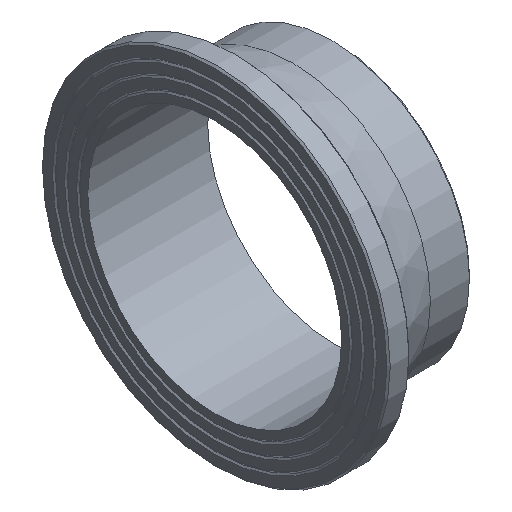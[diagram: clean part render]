
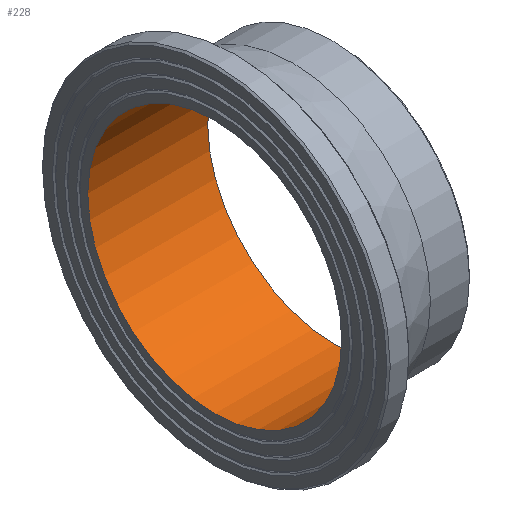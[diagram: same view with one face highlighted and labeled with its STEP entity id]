
A CAD part, isometric view. The second image highlights one B-rep face of the part: STEP entity #228.
In plain terms, the highlighted cylindrical face has radius 115.4 mm (diameter 230.8 mm), a full revolution.
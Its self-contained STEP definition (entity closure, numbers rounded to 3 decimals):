
#33=CYLINDRICAL_SURFACE('',#274,115.4);
#50=ORIENTED_EDGE('',*,*,#79,.F.);
#51=ORIENTED_EDGE('',*,*,#76,.T.);
#76=EDGE_CURVE('',#96,#96,#116,.T.);
#79=EDGE_CURVE('',#99,#99,#119,.T.);
#96=VERTEX_POINT('',#383);
#99=VERTEX_POINT('',#390);
#116=CIRCLE('',#257,115.4);
#119=CIRCLE('',#261,115.4);
#150=EDGE_LOOP('',(#50));
#151=EDGE_LOOP('',(#51));
#190=FACE_BOUND('',#150,.T.);
#191=FACE_BOUND('',#151,.T.);
#228=ADVANCED_FACE('',(#190,#191),#33,.F.);
#257=AXIS2_PLACEMENT_3D('',#382,#303,#304);
#261=AXIS2_PLACEMENT_3D('',#389,#311,#312);
#274=AXIS2_PLACEMENT_3D('',#410,#337,#338);
#303=DIRECTION('',(-1.,0.,0.));
#304=DIRECTION('',(0.,0.,1.));
#311=DIRECTION('',(-1.,0.,0.));
#312=DIRECTION('',(0.,0.,1.));
#337=DIRECTION('',(-1.,0.,0.));
#338=DIRECTION('',(0.,0.,1.));
#382=CARTESIAN_POINT('',(0.,0.,0.));
#383=CARTESIAN_POINT('',(0.,0.,115.4));
#389=CARTESIAN_POINT('',(109.,0.,0.));
#390=CARTESIAN_POINT('',(109.,0.,115.4));
#410=CARTESIAN_POINT('',(60.,0.,0.));
